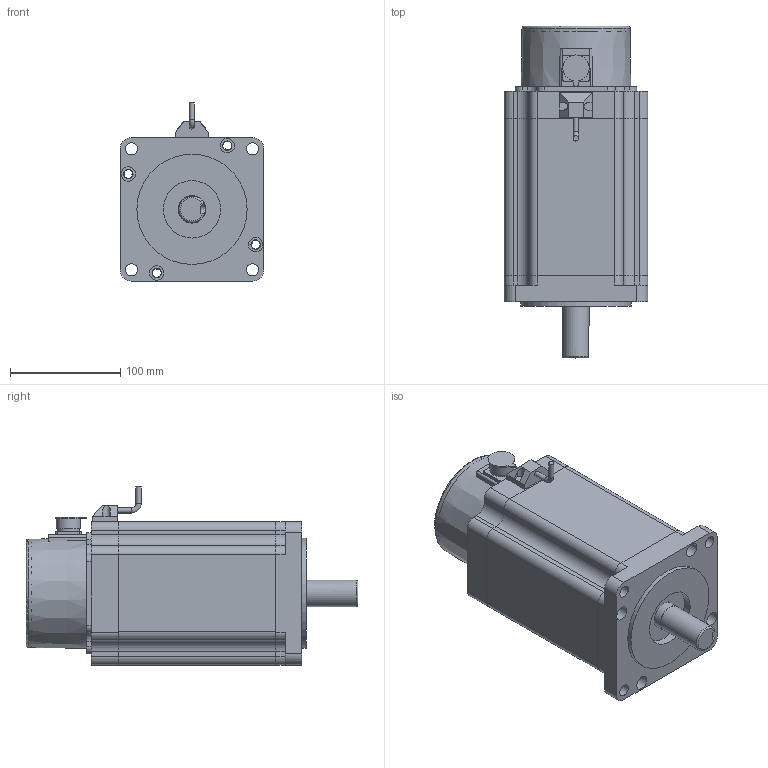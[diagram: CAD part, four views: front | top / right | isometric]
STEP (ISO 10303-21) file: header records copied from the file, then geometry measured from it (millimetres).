
FILE_DESCRIPTION(/* description */ (''),/* implementation_level */ '2;1');
FILE_NAME(/* name */ '130BYG350B.stp',/* time_stamp */ '2024-12-18T14:27:23+08:00',/* author */ (''),/* organization */ (''),/* preprocessor_version */ 'ST-DEVELOPER v18.1',/* originating_system */ 'SIEMENS PLM Software NX 2000',/* authorisation */ '');
FILE_SCHEMA (('AUTOMOTIVE_DESIGN { 1 0 10303 214 3 1 1 1 }'));
Length unit declared in the file: millimetre
Products named in the file (1): 92503CB85CA0kr11
Bounding box: 130 x 301 x 161.44 mm (x, y, z)
Volume: 2917628.9 mm3; surface area: 294041.3 mm2
Topology: 9 solids, 9 shells, 414 faces, 1173 edges, 789 vertices
Faces by surface type: plane 301, cylinder 107, torus 4, cone 2
Full cylindrical faces by diameter (mm): 3 x4, 4.8 x2, 6.5 x4, 7 x1, 8 x4, 8.5 x12, 11 x4, 13 x4, 16.5 x1, 20.196 x2, 22.032 x1, 24 x1, 24.7 x1, 25 x1, 52 x1, 100 x1
Entity records: 13497 total; most frequent: CARTESIAN_POINT 2571, ORIENTED_EDGE 2176, DIRECTION 2124, EDGE_CURVE 1088, LINE 862, VECTOR 862, VERTEX_POINT 754, EDGE_LOOP 632
